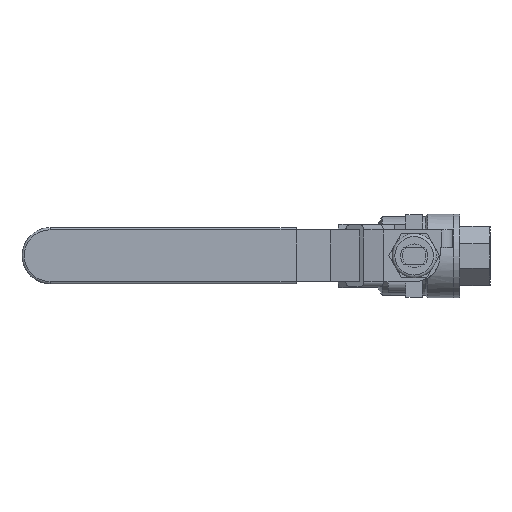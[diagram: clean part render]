
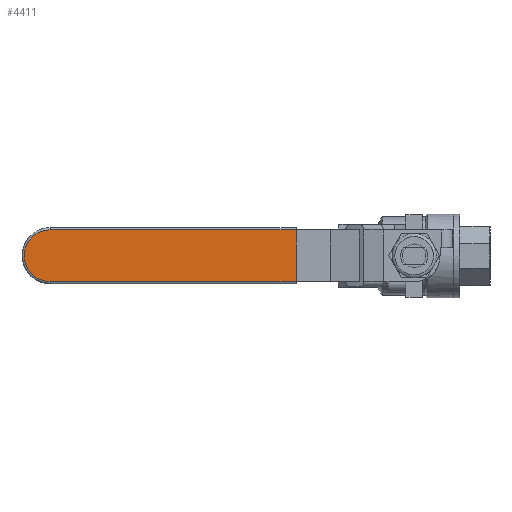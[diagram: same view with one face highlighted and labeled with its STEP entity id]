
A CAD part, top view. The second image highlights one B-rep face of the part: STEP entity #4411.
In plain terms, the highlighted planar face has unit normal (0, 0, 1).
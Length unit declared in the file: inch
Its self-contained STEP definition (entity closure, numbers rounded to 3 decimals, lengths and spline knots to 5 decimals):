
#4309=CARTESIAN_POINT('',(-0.48136,-0.295,2.11437));
#4310=VERTEX_POINT('',#4309);
#4318=CARTESIAN_POINT('',(-3.28636,-0.295,2.11437));
#4319=VERTEX_POINT('',#4318);
#4320=CARTESIAN_POINT('',(-0.48136,-0.295,2.11437));
#4321=DIRECTION('',(-1.0,0.0,0.0));
#4322=VECTOR('',#4321,2.805);
#4323=LINE('',#4320,#4322);
#4324=EDGE_CURVE('',#4310,#4319,#4323,.T.);
#4342=CARTESIAN_POINT('',(-3.28636,0.295,2.11437));
#4343=VERTEX_POINT('',#4342);
#4353=CARTESIAN_POINT('',(-3.28636,0.,2.11437));
#4354=DIRECTION('',(0.0,0.0,-1.0));
#4355=DIRECTION('',(-1.0,0.0,0.0));
#4356=AXIS2_PLACEMENT_3D('',#4353,#4354,#4355);
#4357=CIRCLE('',#4356,0.295);
#4358=EDGE_CURVE('',#4319,#4343,#4357,.T.);
#4368=CARTESIAN_POINT('',(-0.48136,0.295,2.11437));
#4369=VERTEX_POINT('',#4368);
#4386=CARTESIAN_POINT('',(-3.28636,0.295,2.11437));
#4387=DIRECTION('',(1.0,0.0,0.0));
#4388=VECTOR('',#4387,2.805);
#4389=LINE('',#4386,#4388);
#4390=EDGE_CURVE('',#4343,#4369,#4389,.T.);
#4395=CARTESIAN_POINT('',(-3.60636,-0.295,2.11437));
#4396=DIRECTION('',(0.0,0.0,1.0));
#4397=DIRECTION('',(0.0,-1.0,0.0));
#4398=AXIS2_PLACEMENT_3D('',#4395,#4396,#4397);
#4399=PLANE('',#4398);
#4400=ORIENTED_EDGE('',*,*,#4390,.F.);
#4401=ORIENTED_EDGE('',*,*,#4358,.F.);
#4402=ORIENTED_EDGE('',*,*,#4324,.F.);
#4403=CARTESIAN_POINT('',(-0.48136,-0.295,2.11437));
#4404=DIRECTION('',(0.0,1.0,0.0));
#4405=VECTOR('',#4404,0.59);
#4406=LINE('',#4403,#4405);
#4407=EDGE_CURVE('',#4310,#4369,#4406,.T.);
#4408=ORIENTED_EDGE('',*,*,#4407,.T.);
#4409=EDGE_LOOP('',(#4400,#4401,#4402,#4408));
#4410=FACE_OUTER_BOUND('',#4409,.T.);
#4411=ADVANCED_FACE('',(#4410),#4399,.T.);
